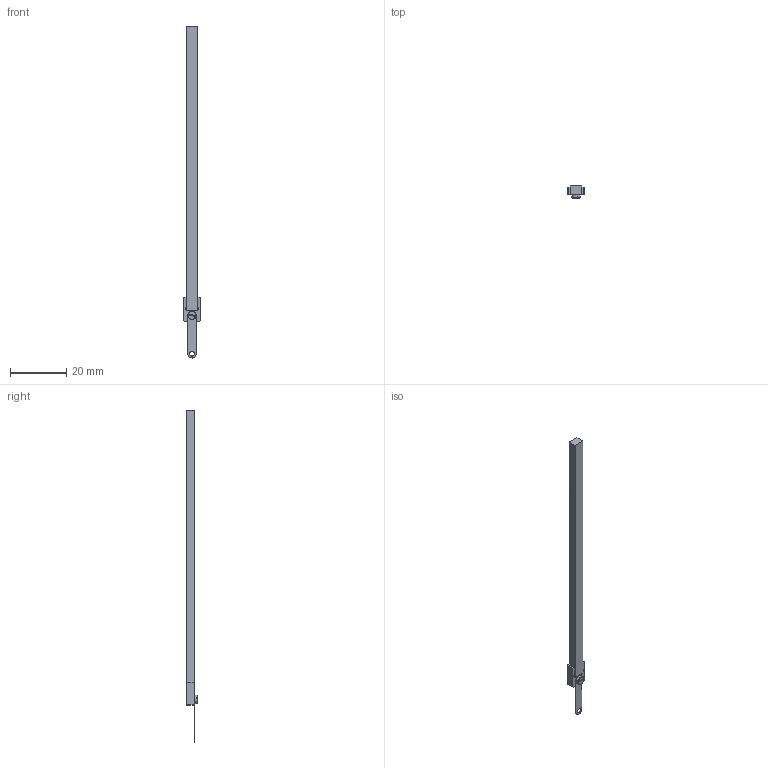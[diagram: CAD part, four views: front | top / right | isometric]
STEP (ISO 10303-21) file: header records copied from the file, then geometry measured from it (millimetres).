
FILE_DESCRIPTION (( 'STEP AP214' ), '1' );
FILE_NAME ('LT2020D_DriveRod_101D1D2-PiezoMotor.STEP', '2017-06-08T12:13:19', ( '' ), ( '' ), 'SwSTEP 2.0', 'SolidWorks 2016', '' );
FILE_SCHEMA (( 'AUTOMOTIVE_DESIGN' ));
Length unit declared in the file: millimetre
Products named in the file (2): LT2020D_DriveRod_101D1D2-PiezoMotor
Bounding box: 6 x 4.1 x 117.75 mm (x, y, z)
Volume: 1309.8 mm3; surface area: 1742.4 mm2
Topology: 4 solids, 4 shells, 54 faces, 130 edges, 85 vertices
Faces by surface type: plane 27, cylinder 20, cone 7
Entity records: 1677 total; most frequent: DIRECTION 289, CARTESIAN_POINT 283, ORIENTED_EDGE 260, EDGE_CURVE 130, AXIS2_PLACEMENT_3D 107, VERTEX_POINT 85, VECTOR 75, LINE 75
